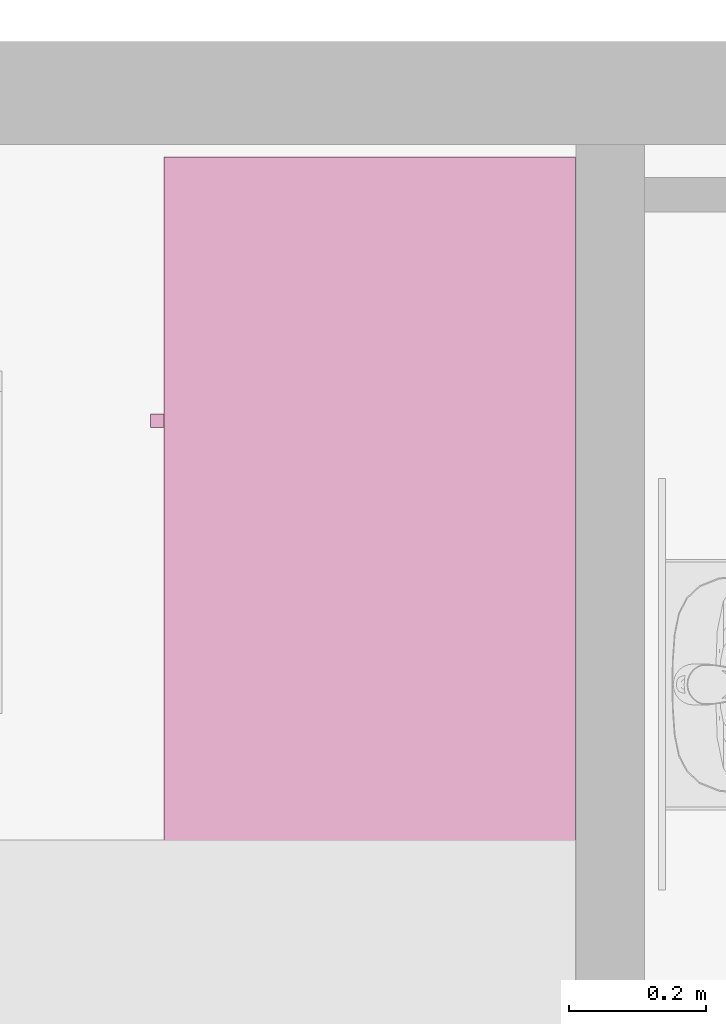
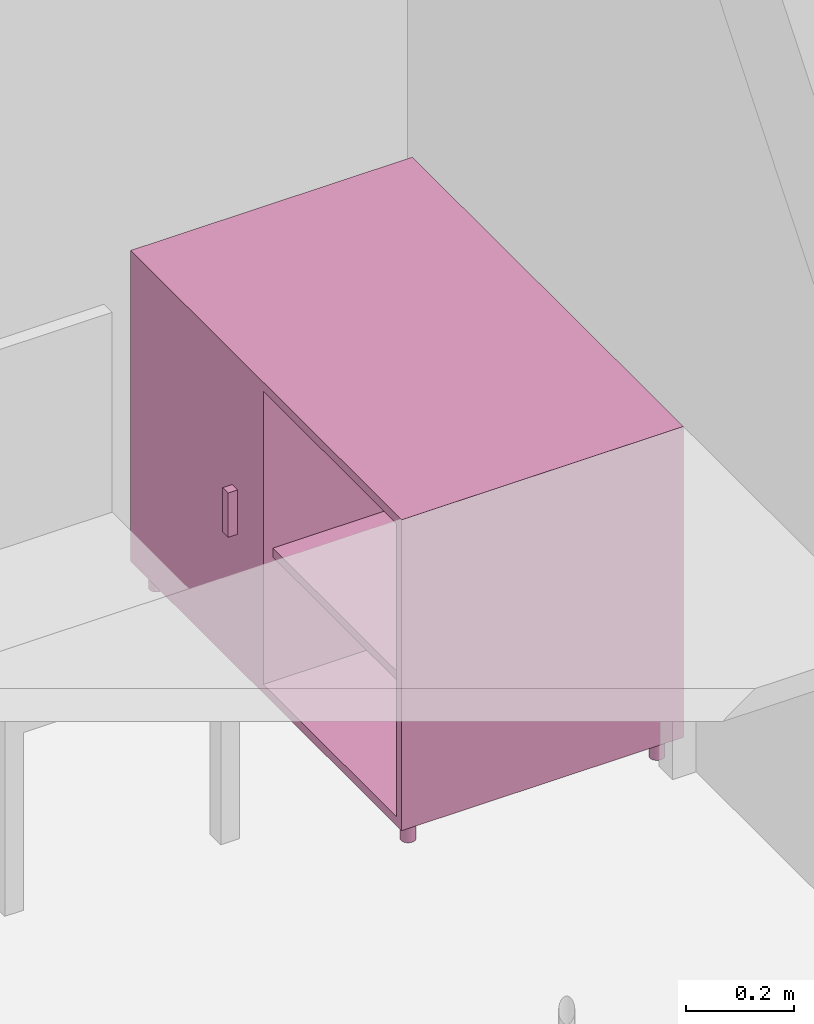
"""IFC4 building model written with IfcOpenShell, lengths in metres."""

import ifcopenshell
import ifcopenshell.guid

model = None  # the IFC model being written
_history = None  # IfcOwnerHistory: only IFC2X3 demands one
_inside = {}  # id of a spatial element -> (the spatial element, [elements in it])
_under = {}  # id of a project, library or spatial element -> (it, [spatial elements below it])
_declared = {}  # id of a project -> (the project, [libraries it declares])
_typed = {}  # id of a type object -> (the type object, [elements of that type])
_made_of = {}  # id of a material, layer set ... -> (it, [elements and type objects made of it])


def new_model(schema):
    """Start an empty IFC model of exactly this schema.

    Asked for "IFC4X3", IfcOpenShell would pick the latest addendum, in which some entities
    have other attributes; the version numbers below select the first issue.
    IFC2X3 requires an IfcOwnerHistory on every rooted entity: one is made here for all.
    """
    global model, _history
    if schema == "IFC4X3":
        model = ifcopenshell.file(schema_version=(4, 3, 0, 0))
    else:
        model = ifcopenshell.file(schema=schema)
    _inside.clear()
    _under.clear()
    _declared.clear()
    _typed.clear()
    _made_of.clear()
    _history = None
    if model.schema == "IFC2X3":
        org = make("IfcOrganization", Name="unknown")
        user = make(
            "IfcPersonAndOrganization",
            ThePerson=make("IfcPerson", FamilyName="unknown"),
            TheOrganization=org,
        )
        app = make(
            "IfcApplication",
            ApplicationDeveloper=org,
            Version="unknown",
            ApplicationFullName="unknown",
            ApplicationIdentifier="unknown",
        )
        _history = make(
            "IfcOwnerHistory",
            OwningUser=user,
            OwningApplication=app,
            ChangeAction="ADDED",
            CreationDate=0,
        )
    return model


def make(cls, **values):
    """One entity of the class cls with the attributes given. An attribute that is None is left unset."""
    return model.create_entity(
        cls, **{name: value for name, value in values.items() if value is not None}
    )


def entity(cls, *values):
    """Any entity or typed value of the class cls, its attributes in the order of the schema. None: left unset."""
    e = model.create_entity(cls)
    for i, value in enumerate(values):
        if value is not None:
            e[i] = value
    return e


def rooted(cls, **values):
    """An entity with a GlobalId (a new one), such as an element, a storey or a relation."""
    return make(cls, GlobalId=ifcopenshell.guid.new(), OwnerHistory=_history, **values)


def si_unit(unit_type, name, prefix=None):
    """IfcSIUnit, for example si_unit("LENGTHUNIT", "METRE", prefix="MILLI")."""
    return make("IfcSIUnit", UnitType=unit_type, Prefix=prefix, Name=name)


def converted_unit(unit_type, name, factor, base, dimensions=None, offset=None):
    """IfcConversionBasedUnit, such as the inch: factor (a typed value) times the base unit."""
    return make(
        "IfcConversionBasedUnit"
        if offset is None
        else "IfcConversionBasedUnitWithOffset",
        ConversionOffset=offset,
        Dimensions=None
        if dimensions is None
        else entity("IfcDimensionalExponents", *dimensions),
        UnitType=unit_type,
        Name=name,
        ConversionFactor=make(
            "IfcMeasureWithUnit", ValueComponent=factor, UnitComponent=base
        ),
    )


def derived_unit(unit_type, elements):
    """IfcDerivedUnit: a product of units, each with its exponent."""
    return make(
        "IfcDerivedUnit",
        Elements=[
            make("IfcDerivedUnitElement", Unit=unit, Exponent=power)
            for unit, power in elements
        ],
        UnitType=unit_type,
    )


def assignment(units):
    """IfcUnitAssignment: the units of a project."""
    return None if units is None else make("IfcUnitAssignment", Units=units)


def point(xyz):
    """IfcCartesianPoint."""
    return None if xyz is None else make("IfcCartesianPoint", Coordinates=xyz)


def direction(xyz):
    """IfcDirection."""
    return None if xyz is None else make("IfcDirection", DirectionRatios=xyz)


def frame(location, z_axis=None, x_axis=None):
    """IfcAxis2Placement3D, a coordinate frame: its origin and axes. An axis left out is left unset."""
    return make(
        "IfcAxis2Placement3D",
        Location=point(location),
        Axis=direction(z_axis),
        RefDirection=direction(x_axis),
    )


def origin():
    """The frame at (0, 0, 0) with its axes left unset."""
    return frame((0.0, 0.0, 0.0))


def place(relative_to, where):
    """IfcLocalPlacement: puts the frame where relative to a parent placement (None: the world)."""
    return make(
        "IfcLocalPlacement", PlacementRelTo=relative_to, RelativePlacement=where
    )


def context(
    kind, dimensions, precision=None, world=None, true_north=None, identifier=None
):
    """IfcGeometricRepresentationContext, for example the 3D "Model" context."""
    return make(
        "IfcGeometricRepresentationContext",
        ContextIdentifier=identifier,
        ContextType=kind,
        CoordinateSpaceDimension=dimensions,
        Precision=precision,
        WorldCoordinateSystem=world,
        TrueNorth=true_north,
    )


def subcontext(parent, identifier, kind, view, scale=None):
    """IfcGeometricRepresentationSubContext, for example "Body" below "Model"."""
    return make(
        "IfcGeometricRepresentationSubContext",
        ContextIdentifier=identifier,
        ContextType=kind,
        ParentContext=parent,
        TargetScale=scale,
        TargetView=view,
    )


def project(units=None, contexts=None):
    """IfcProject with its units and contexts."""
    return rooted(
        "IfcProject",
        Name="project",
        RepresentationContexts=contexts,
        UnitsInContext=assignment(units),
    )


def spatial(cls, under=None, at=None, **own):
    """A site, building, storey or space (cls), placed at a placement, below another one or the project."""
    s = rooted(cls, ObjectPlacement=at, **own)
    if under is not None:
        _under.setdefault(under.id(), (under, []))[1].append(s)
    return s


def faces_of(points, faces, orient=None, outer=None):
    """IfcFace entities. A face is a list of loops; a loop is a list of indices into points, from 0.

    orient and outer hold one flag for each loop. By default every Orientation is true, the
    first loop of a face is its IfcFaceOuterBound and the others are IfcFaceBound.
    """
    made = []
    for i, loops in enumerate(faces):
        bounds = []
        for j, loop in enumerate(loops):
            is_outer = j == 0 if outer is None else outer[i][j]
            bounds.append(
                make(
                    "IfcFaceOuterBound" if is_outer else "IfcFaceBound",
                    Bound=make("IfcPolyLoop", Polygon=[points[k] for k in loop]),
                    Orientation=True if orient is None else orient[i][j],
                )
            )
        made.append(make("IfcFace", Bounds=bounds))
    return made


def faceted_brep(points, faces, orient=None, outer=None, voids=None):
    """IfcFacetedBrep: a solid bounded by flat faces; with voids (closed shells), ...WithVoids."""
    shared = [point(p) for p in points]
    hull = make("IfcClosedShell", CfsFaces=faces_of(shared, faces, orient, outer))
    if voids is None:
        return make("IfcFacetedBrep", Outer=hull)
    return make(
        "IfcFacetedBrepWithVoids",
        Outer=hull,
        Voids=[
            make(cls, CfsFaces=faces_of(shared, fs, o, b)) for cls, fs, o, b in voids
        ],
    )


def shape(context_of_items, identifier, shape_type, items):
    """IfcShapeRepresentation: the items that make up one representation, for example the "Body"."""
    return make(
        "IfcShapeRepresentation",
        ContextOfItems=context_of_items,
        RepresentationIdentifier=identifier,
        RepresentationType=shape_type,
        Items=items,
    )


def made_of(thing, what):
    """Note that an element or type object is made of a material, layer set ...; save() writes the relation."""
    if what is not None:
        _made_of.setdefault(what.id(), (what, []))[1].append(thing)
    return thing


def element(
    cls,
    number,
    at=None,
    inside=None,
    cuts=None,
    type_object=None,
    material=None,
    context=None,
    identifier="Body",
    shape_type=None,
    held_by="IfcProductDefinitionShape",
    body=None,
    shapes=None,
    **own,
):
    """One element of the class cls, such as IfcWall. Its Tag is "e" and its number.

    at: its placement. inside: the storey or other place that contains it. cuts: it is an
    opening in that element (IfcRelVoidsElement). A single representation is given by context,
    identifier, shape_type and body (its items); several are given by shapes. held_by: the class
    of the entity that holds the representations. save() writes the other relations.
    """
    e = rooted(cls, Tag="e%d" % number, ObjectPlacement=at, **own)
    if body is not None:
        shapes = [shape(context, identifier, shape_type, body)]
    if shapes is not None:
        e.Representation = make(held_by, Representations=shapes)
    if inside is not None:
        _inside.setdefault(inside.id(), (inside, []))[1].append(e)
    if cuts is not None:
        rooted(
            "IfcRelVoidsElement", RelatingBuildingElement=cuts, RelatedOpeningElement=e
        )
    if type_object is not None:
        _typed.setdefault(type_object.id(), (type_object, []))[1].append(e)
    return made_of(e, material)


def aggregate(whole, parts):
    """IfcRelAggregates: a whole, such as a stair, and the parts it consists of."""
    return rooted("IfcRelAggregates", RelatingObject=whole, RelatedObjects=parts)


def save(model, path):
    """Write the relations noted so far, then the file.

    IfcRelAggregates (storeys below a building ...), IfcRelContainedInSpatialStructure (elements
    in a storey), IfcRelDefinesByType, IfcRelAssociatesMaterial and IfcRelDeclares: one each for
    every whole, place, type object, material and project.
    """
    for whole, parts in _under.values():
        aggregate(whole, parts)
    for where, things in _inside.values():
        rooted(
            "IfcRelContainedInSpatialStructure",
            RelatedElements=things,
            RelatingStructure=where,
        )
    for kind, things in _typed.values():
        rooted("IfcRelDefinesByType", RelatedObjects=things, RelatingType=kind)
    for what, things in _made_of.values():
        rooted("IfcRelAssociatesMaterial", RelatedObjects=things, RelatingMaterial=what)
    for by, libraries in _declared.values():
        rooted("IfcRelDeclares", RelatingContext=by, RelatedDefinitions=libraries)
    model.write(path)


model = new_model("IFC4")

# Units and contexts
model_context = context("Model", 3, precision=1e-05, world=origin())
body_context = subcontext(model_context, "Body", "Model", "MODEL_VIEW")
ifc_project = project(units=[si_unit("LENGTHUNIT", "METRE"), si_unit("AREAUNIT", "SQUARE_METRE"), si_unit("VOLUMEUNIT", "CUBIC_METRE"), si_unit("MASSUNIT", "GRAM", prefix="KILO"), converted_unit("PLANEANGLEUNIT", "DEGREE", entity("IfcPlaneAngleMeasure", 0.0174532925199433), si_unit("PLANEANGLEUNIT", "RADIAN"), dimensions=[0, 0, 0, 0, 0, 0, 0]), derived_unit("THERMALTRANSMITTANCEUNIT", [(si_unit("POWERUNIT", "WATT"), 1), (si_unit("THERMODYNAMICTEMPERATUREUNIT", "KELVIN"), -1), (si_unit("LENGTHUNIT", "METRE"), -2)]), derived_unit("VOLUMETRICFLOWRATEUNIT", [(si_unit("LENGTHUNIT", "METRE"), 3), (converted_unit("TIMEUNIT", "hour", entity("IfcTimeMeasure", 3600.0), si_unit("TIMEUNIT", "SECOND"), dimensions=[0, 0, 1, 0, 0, 0, 0]), -1), (si_unit("LENGTHUNIT", "METRE"), -1)])], contexts=[model_context])

# Building, storeys
building_placement = place(None, origin())
building = spatial("IfcBuilding", under=ifc_project, at=building_placement, Name="HABITATGE PLURIFAMILIAR", CompositionType="ELEMENT")
storey_1_placement = place(building_placement, frame((0.0, 0.0, 6.25)))
storey_1 = spatial("IfcBuildingStorey", under=building, at=storey_1_placement, Name="PLANTA PRIMERA", CompositionType="ELEMENT", Elevation=6.25)
storey_2_placement = place(storey_1_placement, frame((0.0, 0.0, 3.35)))
storey_2 = spatial("IfcBuildingStorey", under=storey_1, at=storey_2_placement, Name="NOU", CompositionType="PARTIAL")

# Furniture
furniture_placement = place(storey_2_placement, frame((403.715820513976, 27.0594940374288, -3.35)))
element("IfcFurniture", 1, at=furniture_placement, inside=storey_2, Name="Taula 100X60_P1", context=body_context, shape_type="Brep", body=[
    faceted_brep([(0.620000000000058, 0.0, 0.05), (0.02, 0.0, 0.05), (0.02, 0.0, 0.07), (0.620000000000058, 0.0, 0.07), (0.02, 1.00000000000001, 0.05), (0.02, 1.00000000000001, 0.07), (0.620000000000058, 1.00000000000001, 0.05), (0.620000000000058, 1.00000000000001, 0.07)], [[[0, 1, 2, 3]], [[1, 4, 5, 2]], [[4, 6, 7, 5]], [[6, 0, 3, 7]], [[0, 6, 4, 1]], [[3, 2, 5, 7]]], orient=[[False], [False], [False], [False], [False], [False]]),
    faceted_brep([(0.04, 0.0, 0.35), (0.62, 0.0, 0.35), (0.62, 1.0, 0.35), (0.04, 1.00000000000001, 0.35), (0.62, 0.0, 0.37), (0.04, 0.0, 0.37), (0.04, 1.00000000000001, 0.37), (0.62, 1.0, 0.37)], [[[0, 1, 2, 3]], [[4, 5, 6, 7]], [[1, 0, 5, 4]], [[2, 1, 4, 7]], [[3, 2, 7, 6]], [[0, 3, 6, 5]]], orient=[[False], [False], [False], [False], [False], [False]]),
    faceted_brep([(0.04, 0.510000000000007, 0.75), (0.04, 0.510000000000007, 0.05), (0.02, 0.510000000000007, 0.05), (0.02, 0.510000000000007, 0.75), (0.04, 1.00000000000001, 0.05), (0.02, 1.00000000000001, 0.05), (0.04, 1.00000000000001, 0.75), (0.02, 1.00000000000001, 0.75)], [[[0, 1, 2, 3]], [[1, 4, 5, 2]], [[4, 6, 7, 5]], [[6, 0, 3, 7]], [[0, 6, 4, 1]], [[3, 2, 5, 7]]], orient=[[False], [False], [False], [False], [False], [False]]),
    faceted_brep([(0.62, 0.0200000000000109, 0.75), (0.620000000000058, 0.0200000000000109, 0.0499999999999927), (0.620000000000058, 0.0, 0.0499999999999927), (0.62, 0.0, 0.75), (0.02, 0.0200000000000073, 0.05), (0.02, 0.0, 0.05), (0.02, 0.0200000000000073, 0.75), (0.02, 0.0, 0.75)], [[[0, 1, 2, 3]], [[1, 4, 5, 2]], [[4, 6, 7, 5]], [[6, 0, 3, 7]], [[0, 6, 4, 1]], [[3, 2, 5, 7]]], orient=[[False], [False], [False], [False], [False], [False]]),
    faceted_brep([(0.62, 0.530000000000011, 0.75), (0.620000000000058, 0.530000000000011, 0.0499999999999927), (0.620000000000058, 0.510000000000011, 0.0499999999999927), (0.62, 0.510000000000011, 0.75), (0.02, 0.530000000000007, 0.05), (0.02, 0.510000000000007, 0.05), (0.02, 0.530000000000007, 0.75), (0.02, 0.510000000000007, 0.75)], [[[0, 1, 2, 3]], [[1, 4, 5, 2]], [[4, 6, 7, 5]], [[6, 0, 3, 7]], [[0, 6, 4, 1]], [[3, 2, 5, 7]]], orient=[[False], [False], [False], [False], [False], [False]]),
    faceted_brep([(0.620000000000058, 0.530000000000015, 0.75000000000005), (0.620000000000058, 0.530000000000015, 0.0499999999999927), (0.620000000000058, 0.510000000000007, 0.0499999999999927), (0.620000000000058, 0.510000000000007, 0.75000000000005), (0.0400000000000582, 0.530000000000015, 0.0499999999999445), (0.0400000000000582, 0.510000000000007, 0.0499999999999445), (0.04, 0.530000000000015, 0.750000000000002), (0.04, 0.510000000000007, 0.750000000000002)], [[[0, 1, 2, 3]], [[1, 4, 5, 2]], [[4, 6, 7, 5]], [[6, 0, 3, 7]], [[0, 6, 4, 1]], [[3, 2, 5, 7]]], orient=[[False], [False], [False], [False], [False], [False]]),
    faceted_brep([(0.62, 1.00000000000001, 0.75), (0.620000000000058, 1.00000000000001, 0.0499999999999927), (0.620000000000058, 0.980000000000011, 0.0499999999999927), (0.62, 0.980000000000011, 0.75), (0.02, 1.00000000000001, 0.05), (0.02, 0.980000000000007, 0.05), (0.02, 1.00000000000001, 0.75), (0.02, 0.980000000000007, 0.75)], [[[0, 1, 2, 3]], [[1, 4, 5, 2]], [[4, 6, 7, 5]], [[6, 0, 3, 7]], [[0, 6, 4, 1]], [[3, 2, 5, 7]]], orient=[[False], [False], [False], [False], [False], [False]]),
    faceted_brep([(0.620000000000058, 0.0, 0.73), (0.02, 0.0, 0.73), (0.02, 0.0, 0.75), (0.620000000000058, 0.0, 0.75), (0.02, 1.00000000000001, 0.73), (0.02, 1.00000000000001, 0.75), (0.620000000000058, 1.00000000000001, 0.73), (0.620000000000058, 1.00000000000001, 0.75)], [[[0, 1, 2, 3]], [[1, 4, 5, 2]], [[4, 6, 7, 5]], [[6, 0, 3, 7]], [[0, 6, 4, 1]], [[3, 2, 5, 7]]], orient=[[False], [False], [False], [False], [False], [False]]),
    faceted_brep([(0.62, 0.0200000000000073, 0.75), (0.62, 0.0200000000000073, 0.05), (0.6, 0.0200000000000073, 0.05), (0.6, 0.0200000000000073, 0.75), (0.62, 1.00000000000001, 0.05), (0.6, 1.00000000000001, 0.05), (0.62, 1.00000000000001, 0.75), (0.6, 1.00000000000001, 0.75)], [[[0, 1, 2, 3]], [[1, 4, 5, 2]], [[4, 6, 7, 5]], [[6, 0, 3, 7]], [[0, 6, 4, 1]], [[3, 2, 5, 7]]], orient=[[False], [False], [False], [False], [False], [False]]),
    faceted_brep([(0.02, 0.625579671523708, 0.35), (0.0, 0.625579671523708, 0.35), (0.0, 0.605579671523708, 0.35), (0.02, 0.605579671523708, 0.35), (0.02, 0.605579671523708, 0.45), (0.0, 0.605579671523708, 0.45), (0.0, 0.625579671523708, 0.45), (0.02, 0.625579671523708, 0.45)], [[[0, 1, 2, 3]], [[4, 5, 6, 7]], [[3, 4, 7, 0]], [[2, 5, 4, 3]], [[1, 6, 5, 2]], [[0, 7, 6, 1]]], orient=[[False], [False], [False], [False], [False], [False]]),
    faceted_brep([(0.583821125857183, 0.049936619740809, 0.0), (0.581227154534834, 0.0497096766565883, 0.0), (0.578711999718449, 0.0490357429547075, 0.0), (0.5763520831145, 0.0479352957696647, 0.0), (0.574219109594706, 0.0464417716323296, 0.0), (0.57237788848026, 0.0446005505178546, 0.0), (0.570884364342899, 0.0424675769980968, 0.0), (0.569783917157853, 0.0401076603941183, 0.0), (0.569109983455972, 0.0375925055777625, 0.0), (0.568883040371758, 0.0349985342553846, 0.0), (0.569109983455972, 0.0324045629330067, 0.0), (0.569783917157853, 0.0298894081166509, 0.0), (0.570884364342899, 0.0275294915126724, 0.0), (0.57237788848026, 0.0253965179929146, 0.0), (0.574219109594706, 0.0235552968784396, 0.0), (0.5763520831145, 0.0220617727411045, 0.0), (0.578711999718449, 0.0209613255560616, 0.0), (0.581227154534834, 0.0202873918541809, 0.0), (0.583821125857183, 0.0200604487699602, 0.0), (0.586415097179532, 0.0202873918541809, 0.0), (0.588930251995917, 0.0209613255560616, 0.0), (0.591290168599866, 0.0220617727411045, 0.0), (0.59342314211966, 0.0235552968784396, 0.0), (0.595264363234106, 0.0253965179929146, 0.0), (0.596757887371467, 0.0275294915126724, 0.0), (0.597858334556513, 0.0298894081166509, 0.0), (0.598532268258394, 0.0324045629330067, 0.0), (0.598759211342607, 0.0349985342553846, 0.0), (0.598532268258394, 0.0375925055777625, 0.0), (0.597858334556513, 0.0401076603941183, 0.0), (0.596757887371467, 0.0424675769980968, 0.0), (0.595264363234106, 0.0446005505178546, 0.0), (0.59342314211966, 0.0464417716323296, 0.0), (0.591290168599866, 0.0479352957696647, 0.0), (0.588930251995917, 0.0490357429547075, 0.0), (0.586415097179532, 0.0497096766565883, 0.0), (0.583821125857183, 0.049936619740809, 0.05), (0.586415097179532, 0.0497096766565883, 0.05), (0.588930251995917, 0.0490357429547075, 0.05), (0.591290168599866, 0.0479352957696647, 0.05), (0.59342314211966, 0.0464417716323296, 0.05), (0.595264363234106, 0.0446005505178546, 0.05), (0.596757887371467, 0.0424675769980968, 0.05), (0.597858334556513, 0.0401076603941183, 0.05), (0.598532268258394, 0.0375925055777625, 0.05), (0.598759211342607, 0.0349985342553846, 0.05), (0.598532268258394, 0.0324045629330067, 0.05), (0.597858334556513, 0.0298894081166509, 0.05), (0.596757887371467, 0.0275294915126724, 0.05), (0.595264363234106, 0.0253965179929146, 0.05), (0.59342314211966, 0.0235552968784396, 0.05), (0.591290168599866, 0.0220617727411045, 0.05), (0.588930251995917, 0.0209613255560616, 0.05), (0.586415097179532, 0.0202873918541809, 0.05), (0.583821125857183, 0.0200604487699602, 0.05), (0.581227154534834, 0.0202873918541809, 0.05), (0.578711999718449, 0.0209613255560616, 0.05), (0.5763520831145, 0.0220617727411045, 0.05), (0.574219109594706, 0.0235552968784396, 0.05), (0.57237788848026, 0.0253965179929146, 0.05), (0.570884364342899, 0.0275294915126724, 0.05), (0.569783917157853, 0.0298894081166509, 0.05), (0.569109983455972, 0.0324045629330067, 0.05), (0.568883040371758, 0.0349985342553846, 0.05), (0.569109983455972, 0.0375925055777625, 0.05), (0.569783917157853, 0.0401076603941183, 0.05), (0.570884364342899, 0.0424675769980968, 0.05), (0.57237788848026, 0.0446005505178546, 0.05), (0.574219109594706, 0.0464417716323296, 0.05), (0.5763520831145, 0.0479352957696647, 0.05), (0.578711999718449, 0.0490357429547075, 0.05), (0.581227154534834, 0.0497096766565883, 0.05)], [[[0, 1, 2, 3, 4, 5, 6, 7, 8, 9, 10, 11, 12, 13, 14, 15, 16, 17, 18, 19, 20, 21, 22, 23, 24, 25, 26, 27, 28, 29, 30, 31, 32, 33, 34, 35]], [[36, 37, 38, 39, 40, 41, 42, 43, 44, 45, 46, 47, 48, 49, 50, 51, 52, 53, 54, 55, 56, 57, 58, 59, 60, 61, 62, 63, 64, 65, 66, 67, 68, 69, 70, 71]], [[1, 0, 36, 71]], [[2, 1, 71, 70]], [[3, 2, 70, 69]], [[4, 3, 69, 68]], [[5, 4, 68, 67]], [[6, 5, 67, 66]], [[7, 6, 66, 65]], [[8, 7, 65, 64]], [[9, 8, 64, 63]], [[10, 9, 63, 62]], [[11, 10, 62, 61]], [[12, 11, 61, 60]], [[13, 12, 60, 59]], [[14, 13, 59, 58]], [[15, 14, 58, 57]], [[16, 15, 57, 56]], [[17, 16, 56, 55]], [[18, 17, 55, 54]], [[19, 18, 54, 53]], [[20, 19, 53, 52]], [[21, 20, 52, 51]], [[22, 21, 51, 50]], [[23, 22, 50, 49]], [[24, 23, 49, 48]], [[25, 24, 48, 47]], [[26, 25, 47, 46]], [[27, 26, 46, 45]], [[28, 27, 45, 44]], [[29, 28, 44, 43]], [[30, 29, 43, 42]], [[31, 30, 42, 41]], [[32, 31, 41, 40]], [[33, 32, 40, 39]], [[34, 33, 39, 38]], [[35, 34, 38, 37]], [[0, 35, 37, 36]]], orient=[[False], [False], [False], [False], [False], [False], [False], [False], [False], [False], [False], [False], [False], [False], [False], [False], [False], [False], [False], [False], [False], [False], [False], [False], [False], [False], [False], [False], [False], [False], [False], [False], [False], [False], [False], [False], [False], [False]]),
    faceted_brep([(0.0538211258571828, 0.0499366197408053, 0.0), (0.051227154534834, 0.0497096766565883, 0.0), (0.0487119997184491, 0.0490357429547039, 0.0), (0.0463520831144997, 0.047935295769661, 0.0), (0.0442191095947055, 0.0464417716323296, 0.0), (0.0423778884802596, 0.0446005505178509, 0.0), (0.0408843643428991, 0.0424675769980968, 0.0), (0.0397839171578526, 0.0401076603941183, 0.0), (0.0391099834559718, 0.0375925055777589, 0.0), (0.0388830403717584, 0.0349985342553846, 0.0), (0.0391099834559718, 0.0324045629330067, 0.0), (0.0397839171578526, 0.0298894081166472, 0.0), (0.0408843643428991, 0.0275294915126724, 0.0), (0.0423778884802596, 0.0253965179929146, 0.0), (0.0442191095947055, 0.0235552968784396, 0.0), (0.0463520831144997, 0.0220617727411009, 0.0), (0.0487119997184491, 0.0209613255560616, 0.0), (0.051227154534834, 0.0202873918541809, 0.0), (0.0538211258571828, 0.0200604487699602, 0.0), (0.0564150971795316, 0.0202873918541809, 0.0), (0.0589302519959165, 0.0209613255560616, 0.0), (0.0612901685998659, 0.0220617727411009, 0.0), (0.06342314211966, 0.0235552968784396, 0.0), (0.065264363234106, 0.0253965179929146, 0.0), (0.0667578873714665, 0.0275294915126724, 0.0), (0.067858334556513, 0.0298894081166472, 0.0), (0.0685322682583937, 0.0324045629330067, 0.0), (0.0687592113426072, 0.0349985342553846, 0.0), (0.0685322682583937, 0.0375925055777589, 0.0), (0.067858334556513, 0.0401076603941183, 0.0), (0.0667578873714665, 0.0424675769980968, 0.0), (0.065264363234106, 0.0446005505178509, 0.0), (0.06342314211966, 0.0464417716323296, 0.0), (0.0612901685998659, 0.047935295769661, 0.0), (0.0589302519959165, 0.0490357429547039, 0.0), (0.0564150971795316, 0.0497096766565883, 0.0), (0.0538211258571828, 0.0499366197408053, 0.05), (0.0564150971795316, 0.0497096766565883, 0.05), (0.0589302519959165, 0.0490357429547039, 0.05), (0.0612901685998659, 0.047935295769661, 0.05), (0.06342314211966, 0.0464417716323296, 0.05), (0.065264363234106, 0.0446005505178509, 0.05), (0.0667578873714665, 0.0424675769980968, 0.05), (0.067858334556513, 0.0401076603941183, 0.05), (0.0685322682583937, 0.0375925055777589, 0.05), (0.0687592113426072, 0.0349985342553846, 0.05), (0.0685322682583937, 0.0324045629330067, 0.05), (0.067858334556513, 0.0298894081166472, 0.05), (0.0667578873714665, 0.0275294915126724, 0.05), (0.065264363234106, 0.0253965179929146, 0.05), (0.06342314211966, 0.0235552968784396, 0.05), (0.0612901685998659, 0.0220617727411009, 0.05), (0.0589302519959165, 0.0209613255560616, 0.05), (0.0564150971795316, 0.0202873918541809, 0.05), (0.0538211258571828, 0.0200604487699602, 0.05), (0.051227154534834, 0.0202873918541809, 0.05), (0.0487119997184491, 0.0209613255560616, 0.05), (0.0463520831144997, 0.0220617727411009, 0.05), (0.0442191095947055, 0.0235552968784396, 0.05), (0.0423778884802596, 0.0253965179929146, 0.05), (0.0408843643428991, 0.0275294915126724, 0.05), (0.0397839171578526, 0.0298894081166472, 0.05), (0.0391099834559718, 0.0324045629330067, 0.05), (0.0388830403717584, 0.0349985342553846, 0.05), (0.0391099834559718, 0.0375925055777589, 0.05), (0.0397839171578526, 0.0401076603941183, 0.05), (0.0408843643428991, 0.0424675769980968, 0.05), (0.0423778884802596, 0.0446005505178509, 0.05), (0.0442191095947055, 0.0464417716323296, 0.05), (0.0463520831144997, 0.047935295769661, 0.05), (0.0487119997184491, 0.0490357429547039, 0.05), (0.051227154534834, 0.0497096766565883, 0.05)], [[[0, 1, 2, 3, 4, 5, 6, 7, 8, 9, 10, 11, 12, 13, 14, 15, 16, 17, 18, 19, 20, 21, 22, 23, 24, 25, 26, 27, 28, 29, 30, 31, 32, 33, 34, 35]], [[36, 37, 38, 39, 40, 41, 42, 43, 44, 45, 46, 47, 48, 49, 50, 51, 52, 53, 54, 55, 56, 57, 58, 59, 60, 61, 62, 63, 64, 65, 66, 67, 68, 69, 70, 71]], [[1, 0, 36, 71]], [[2, 1, 71, 70]], [[3, 2, 70, 69]], [[4, 3, 69, 68]], [[5, 4, 68, 67]], [[6, 5, 67, 66]], [[7, 6, 66, 65]], [[8, 7, 65, 64]], [[9, 8, 64, 63]], [[10, 9, 63, 62]], [[11, 10, 62, 61]], [[12, 11, 61, 60]], [[13, 12, 60, 59]], [[14, 13, 59, 58]], [[15, 14, 58, 57]], [[16, 15, 57, 56]], [[17, 16, 56, 55]], [[18, 17, 55, 54]], [[19, 18, 54, 53]], [[20, 19, 53, 52]], [[21, 20, 52, 51]], [[22, 21, 51, 50]], [[23, 22, 50, 49]], [[24, 23, 49, 48]], [[25, 24, 48, 47]], [[26, 25, 47, 46]], [[27, 26, 46, 45]], [[28, 27, 45, 44]], [[29, 28, 44, 43]], [[30, 29, 43, 42]], [[31, 30, 42, 41]], [[32, 31, 41, 40]], [[33, 32, 40, 39]], [[34, 33, 39, 38]], [[35, 34, 38, 37]], [[0, 35, 37, 36]]], orient=[[False], [False], [False], [False], [False], [False], [False], [False], [False], [False], [False], [False], [False], [False], [False], [False], [False], [False], [False], [False], [False], [False], [False], [False], [False], [False], [False], [False], [False], [False], [False], [False], [False], [False], [False], [False], [False], [False]]),
    faceted_brep([(0.0550000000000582, 0.979982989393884, 0.0), (0.0524060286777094, 0.979756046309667, 0.0), (0.0498908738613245, 0.979082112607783, 0.0), (0.0475309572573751, 0.97798166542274, 0.0), (0.0453979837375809, 0.976488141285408, 0.0), (0.043556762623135, 0.97464692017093, 0.0), (0.0420632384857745, 0.972513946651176, 0.0), (0.040962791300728, 0.970154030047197, 0.0), (0.0402888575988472, 0.967638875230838, 0.0), (0.0400619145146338, 0.965044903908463, 0.0), (0.0402888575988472, 0.962450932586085, 0.0), (0.040962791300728, 0.959935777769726, 0.0), (0.0420632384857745, 0.957575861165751, 0.0), (0.043556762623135, 0.955442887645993, 0.0), (0.0453979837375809, 0.953601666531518, 0.0), (0.0475309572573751, 0.95210814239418, 0.0), (0.0498908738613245, 0.95100769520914, 0.0), (0.0524060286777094, 0.95033376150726, 0.0), (0.0550000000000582, 0.950106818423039, 0.0), (0.057593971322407, 0.95033376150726, 0.0), (0.0601091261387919, 0.95100769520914, 0.0), (0.0624690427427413, 0.95210814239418, 0.0), (0.0646020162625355, 0.953601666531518, 0.0), (0.0664432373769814, 0.955442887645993, 0.0), (0.0679367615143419, 0.957575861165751, 0.0), (0.0690372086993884, 0.959935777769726, 0.0), (0.0697111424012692, 0.962450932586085, 0.0), (0.0699380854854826, 0.965044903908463, 0.0), (0.0697111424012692, 0.967638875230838, 0.0), (0.0690372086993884, 0.970154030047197, 0.0), (0.0679367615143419, 0.972513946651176, 0.0), (0.0664432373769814, 0.97464692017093, 0.0), (0.0646020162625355, 0.976488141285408, 0.0), (0.0624690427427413, 0.97798166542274, 0.0), (0.0601091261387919, 0.979082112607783, 0.0), (0.057593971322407, 0.979756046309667, 0.0), (0.0550000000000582, 0.979982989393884, 0.05), (0.057593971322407, 0.979756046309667, 0.05), (0.0601091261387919, 0.979082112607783, 0.05), (0.0624690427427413, 0.97798166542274, 0.05), (0.0646020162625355, 0.976488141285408, 0.05), (0.0664432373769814, 0.97464692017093, 0.05), (0.0679367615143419, 0.972513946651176, 0.05), (0.0690372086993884, 0.970154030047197, 0.05), (0.0697111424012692, 0.967638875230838, 0.05), (0.0699380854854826, 0.965044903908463, 0.05), (0.0697111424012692, 0.962450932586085, 0.05), (0.0690372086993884, 0.959935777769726, 0.05), (0.0679367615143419, 0.957575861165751, 0.05), (0.0664432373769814, 0.955442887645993, 0.05), (0.0646020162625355, 0.953601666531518, 0.05), (0.0624690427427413, 0.95210814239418, 0.05), (0.0601091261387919, 0.95100769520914, 0.05), (0.057593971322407, 0.95033376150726, 0.05), (0.0550000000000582, 0.950106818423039, 0.05), (0.0524060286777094, 0.95033376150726, 0.05), (0.0498908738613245, 0.95100769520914, 0.05), (0.0475309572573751, 0.95210814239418, 0.05), (0.0453979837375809, 0.953601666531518, 0.05), (0.043556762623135, 0.955442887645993, 0.05), (0.0420632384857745, 0.957575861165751, 0.05), (0.040962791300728, 0.959935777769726, 0.05), (0.0402888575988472, 0.962450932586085, 0.05), (0.0400619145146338, 0.965044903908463, 0.05), (0.0402888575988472, 0.967638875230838, 0.05), (0.040962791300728, 0.970154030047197, 0.05), (0.0420632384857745, 0.972513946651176, 0.05), (0.043556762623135, 0.97464692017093, 0.05), (0.0453979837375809, 0.976488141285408, 0.05), (0.0475309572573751, 0.97798166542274, 0.05), (0.0498908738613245, 0.979082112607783, 0.05), (0.0524060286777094, 0.979756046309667, 0.05)], [[[0, 1, 2, 3, 4, 5, 6, 7, 8, 9, 10, 11, 12, 13, 14, 15, 16, 17, 18, 19, 20, 21, 22, 23, 24, 25, 26, 27, 28, 29, 30, 31, 32, 33, 34, 35]], [[36, 37, 38, 39, 40, 41, 42, 43, 44, 45, 46, 47, 48, 49, 50, 51, 52, 53, 54, 55, 56, 57, 58, 59, 60, 61, 62, 63, 64, 65, 66, 67, 68, 69, 70, 71]], [[1, 0, 36, 71]], [[2, 1, 71, 70]], [[3, 2, 70, 69]], [[4, 3, 69, 68]], [[5, 4, 68, 67]], [[6, 5, 67, 66]], [[7, 6, 66, 65]], [[8, 7, 65, 64]], [[9, 8, 64, 63]], [[10, 9, 63, 62]], [[11, 10, 62, 61]], [[12, 11, 61, 60]], [[13, 12, 60, 59]], [[14, 13, 59, 58]], [[15, 14, 58, 57]], [[16, 15, 57, 56]], [[17, 16, 56, 55]], [[18, 17, 55, 54]], [[19, 18, 54, 53]], [[20, 19, 53, 52]], [[21, 20, 52, 51]], [[22, 21, 51, 50]], [[23, 22, 50, 49]], [[24, 23, 49, 48]], [[25, 24, 48, 47]], [[26, 25, 47, 46]], [[27, 26, 46, 45]], [[28, 27, 45, 44]], [[29, 28, 44, 43]], [[30, 29, 43, 42]], [[31, 30, 42, 41]], [[32, 31, 41, 40]], [[33, 32, 40, 39]], [[34, 33, 39, 38]], [[35, 34, 38, 37]], [[0, 35, 37, 36]]], orient=[[False], [False], [False], [False], [False], [False], [False], [False], [False], [False], [False], [False], [False], [False], [False], [False], [False], [False], [False], [False], [False], [False], [False], [False], [False], [False], [False], [False], [False], [False], [False], [False], [False], [False], [False], [False], [False], [False]]),
    faceted_brep([(0.585033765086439, 0.979647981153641, 0.0), (0.58243979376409, 0.97942103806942, 0.0), (0.579924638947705, 0.97874710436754, 0.0), (0.577564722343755, 0.977646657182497, 0.0), (0.575431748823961, 0.976153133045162, 0.0), (0.573590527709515, 0.974311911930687, 0.0), (0.572097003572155, 0.972178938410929, 0.0), (0.570996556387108, 0.96981902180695, 0.0), (0.570322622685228, 0.967303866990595, 0.0), (0.570095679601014, 0.964709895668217, 0.0), (0.570322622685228, 0.962115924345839, 0.0), (0.570996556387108, 0.959600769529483, 0.0), (0.572097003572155, 0.957240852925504, 0.0), (0.573590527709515, 0.955107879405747, 0.0), (0.575431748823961, 0.953266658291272, 0.0), (0.577564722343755, 0.951773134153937, 0.0), (0.579924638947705, 0.950672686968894, 0.0), (0.58243979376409, 0.949998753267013, 0.0), (0.585033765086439, 0.949771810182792, 0.0), (0.587627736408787, 0.949998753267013, 0.0), (0.590142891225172, 0.950672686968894, 0.0), (0.592502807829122, 0.951773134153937, 0.0), (0.594635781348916, 0.953266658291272, 0.0), (0.596477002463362, 0.955107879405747, 0.0), (0.597970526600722, 0.957240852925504, 0.0), (0.599070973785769, 0.959600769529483, 0.0), (0.59974490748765, 0.962115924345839, 0.0), (0.599971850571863, 0.964709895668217, 0.0), (0.59974490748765, 0.967303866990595, 0.0), (0.599070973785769, 0.96981902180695, 0.0), (0.597970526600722, 0.972178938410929, 0.0), (0.596477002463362, 0.974311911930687, 0.0), (0.594635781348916, 0.976153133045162, 0.0), (0.592502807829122, 0.977646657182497, 0.0), (0.590142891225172, 0.97874710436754, 0.0), (0.587627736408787, 0.97942103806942, 0.0), (0.585033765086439, 0.979647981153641, 0.05), (0.587627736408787, 0.97942103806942, 0.05), (0.590142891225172, 0.97874710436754, 0.05), (0.592502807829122, 0.977646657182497, 0.05), (0.594635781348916, 0.976153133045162, 0.05), (0.596477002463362, 0.974311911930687, 0.05), (0.597970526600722, 0.972178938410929, 0.05), (0.599070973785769, 0.96981902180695, 0.05), (0.59974490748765, 0.967303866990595, 0.05), (0.599971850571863, 0.964709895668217, 0.05), (0.59974490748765, 0.962115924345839, 0.05), (0.599070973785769, 0.959600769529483, 0.05), (0.597970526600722, 0.957240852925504, 0.05), (0.596477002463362, 0.955107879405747, 0.05), (0.594635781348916, 0.953266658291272, 0.05), (0.592502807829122, 0.951773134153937, 0.05), (0.590142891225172, 0.950672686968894, 0.05), (0.587627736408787, 0.949998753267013, 0.05), (0.585033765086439, 0.949771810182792, 0.05), (0.58243979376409, 0.949998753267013, 0.05), (0.579924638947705, 0.950672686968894, 0.05), (0.577564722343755, 0.951773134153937, 0.05), (0.575431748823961, 0.953266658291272, 0.05), (0.573590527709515, 0.955107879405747, 0.05), (0.572097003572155, 0.957240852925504, 0.05), (0.570996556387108, 0.959600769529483, 0.05), (0.570322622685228, 0.962115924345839, 0.05), (0.570095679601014, 0.964709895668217, 0.05), (0.570322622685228, 0.967303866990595, 0.05), (0.570996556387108, 0.96981902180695, 0.05), (0.572097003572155, 0.972178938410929, 0.05), (0.573590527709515, 0.974311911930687, 0.05), (0.575431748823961, 0.976153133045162, 0.05), (0.577564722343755, 0.977646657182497, 0.05), (0.579924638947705, 0.97874710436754, 0.05), (0.58243979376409, 0.97942103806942, 0.05)], [[[0, 1, 2, 3, 4, 5, 6, 7, 8, 9, 10, 11, 12, 13, 14, 15, 16, 17, 18, 19, 20, 21, 22, 23, 24, 25, 26, 27, 28, 29, 30, 31, 32, 33, 34, 35]], [[36, 37, 38, 39, 40, 41, 42, 43, 44, 45, 46, 47, 48, 49, 50, 51, 52, 53, 54, 55, 56, 57, 58, 59, 60, 61, 62, 63, 64, 65, 66, 67, 68, 69, 70, 71]], [[1, 0, 36, 71]], [[2, 1, 71, 70]], [[3, 2, 70, 69]], [[4, 3, 69, 68]], [[5, 4, 68, 67]], [[6, 5, 67, 66]], [[7, 6, 66, 65]], [[8, 7, 65, 64]], [[9, 8, 64, 63]], [[10, 9, 63, 62]], [[11, 10, 62, 61]], [[12, 11, 61, 60]], [[13, 12, 60, 59]], [[14, 13, 59, 58]], [[15, 14, 58, 57]], [[16, 15, 57, 56]], [[17, 16, 56, 55]], [[18, 17, 55, 54]], [[19, 18, 54, 53]], [[20, 19, 53, 52]], [[21, 20, 52, 51]], [[22, 21, 51, 50]], [[23, 22, 50, 49]], [[24, 23, 49, 48]], [[25, 24, 48, 47]], [[26, 25, 47, 46]], [[27, 26, 46, 45]], [[28, 27, 45, 44]], [[29, 28, 44, 43]], [[30, 29, 43, 42]], [[31, 30, 42, 41]], [[32, 31, 41, 40]], [[33, 32, 40, 39]], [[34, 33, 39, 38]], [[35, 34, 38, 37]], [[0, 35, 37, 36]]], orient=[[False], [False], [False], [False], [False], [False], [False], [False], [False], [False], [False], [False], [False], [False], [False], [False], [False], [False], [False], [False], [False], [False], [False], [False], [False], [False], [False], [False], [False], [False], [False], [False], [False], [False], [False], [False], [False], [False]]),
])

save(model, "model.ifc")
